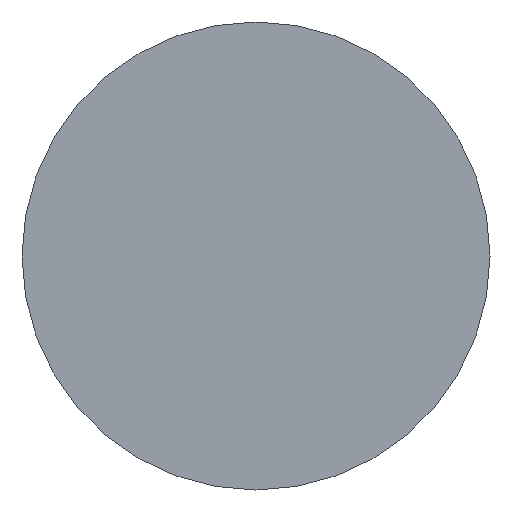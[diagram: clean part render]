
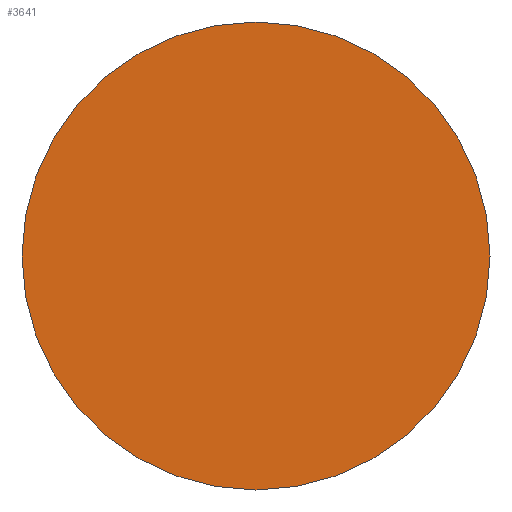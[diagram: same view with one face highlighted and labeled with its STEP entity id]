
A CAD part, front view. The second image highlights one B-rep face of the part: STEP entity #3641.
In plain terms, the highlighted planar face has unit normal (0, -1, 0).
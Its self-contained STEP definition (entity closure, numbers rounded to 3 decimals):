
#23 = VERTEX_POINT ( 'NONE', #66 ) ;
#66 = CARTESIAN_POINT ( 'NONE',  ( 27.5, -24., 0. ) ) ;
#72 = AXIS2_PLACEMENT_3D ( 'NONE', #1572, #1273, #101 ) ;
#101 = DIRECTION ( 'NONE',  ( 1., 0., 0. ) ) ;
#136 = CIRCLE ( 'NONE', #72, 27.5 ) ;
#222 = ORIENTED_EDGE ( 'NONE', *, *, #2848, .T. ) ;
#677 = EDGE_CURVE ( 'NONE', #23, #3245, #2823, .T. ) ;
#686 = EDGE_LOOP ( 'NONE', ( #1657, #222 ) ) ;
#779 = CARTESIAN_POINT ( 'NONE',  ( -27.5, -24., 0. ) ) ;
#1218 = CARTESIAN_POINT ( 'NONE',  ( 27.5, -24., 0. ) ) ;
#1260 = DIRECTION ( 'NONE',  ( 0., -1., 0. ) ) ;
#1273 = DIRECTION ( 'NONE',  ( 0., -1., 0. ) ) ;
#1519 = DIRECTION ( 'NONE',  ( 1., 0., 0. ) ) ;
#1572 = CARTESIAN_POINT ( 'NONE',  ( 0., -24., 0. ) ) ;
#1657 = ORIENTED_EDGE ( 'NONE', *, *, #677, .T. ) ;
#1792 = DIRECTION ( 'NONE',  ( 0., -1., 0. ) ) ;
#2156 = CARTESIAN_POINT ( 'NONE',  ( 0., -24., 0. ) ) ;
#2505 = PLANE ( 'NONE',  #3998 ) ;
#2823 = CIRCLE ( 'NONE', #3805, 27.5 ) ;
#2848 = EDGE_CURVE ( 'NONE', #3245, #23, #136, .T. ) ;
#3245 = VERTEX_POINT ( 'NONE', #779 ) ;
#3641 = ADVANCED_FACE ( 'NONE', ( #3769 ), #2505, .T. ) ;
#3769 = FACE_OUTER_BOUND ( 'NONE', #686, .T. ) ;
#3805 = AXIS2_PLACEMENT_3D ( 'NONE', #2156, #1792, #4009 ) ;
#3998 = AXIS2_PLACEMENT_3D ( 'NONE', #1218, #1260, #1519 ) ;
#4009 = DIRECTION ( 'NONE',  ( 1., 0., 0. ) ) ;
